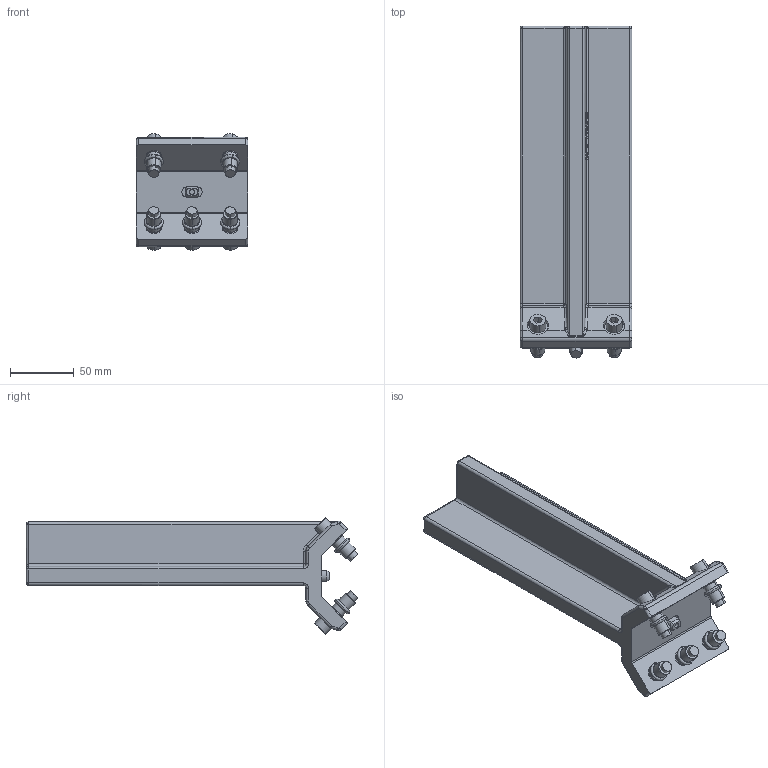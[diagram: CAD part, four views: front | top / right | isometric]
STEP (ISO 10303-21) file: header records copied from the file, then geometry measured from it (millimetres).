
FILE_DESCRIPTION(('CATIA V5 STEP Exchange'),'2;1');
FILE_NAME('C:\Users\User\Desktop\stp\EGT232.stp','2017-07-21T01:38:40+00:00',('none'),('none'),'CATIA Version 5 Release 21 GA (IN-10)','CATIA V5 STEP AP203','none');
FILE_SCHEMA(('CONFIG_CONTROL_DESIGN'));
Length unit declared in the file: millimetre
Products named in the file (1): EGT232
Bounding box: 88 x 260.83 x 91.56 mm (x, y, z)
Volume: 526089.2 mm3; surface area: 97931.4 mm2
Topology: 29 solids, 29 shells, 1301 faces, 3538 edges, 2304 vertices
Faces by surface type: plane 962, cylinder 147, extrusion 100, cone 32, torus 28, sphere 16, revolution 8, bspline 8
Entity records: 42429 total; most frequent: CARTESIAN_POINT 10395, ORIENTED_EDGE 7040, DIRECTION 5658, EDGE_CURVE 3520, VECTOR 2992, LINE 2892, VERTEX_POINT 2304, AXIS2_PLACEMENT_3D 1497
